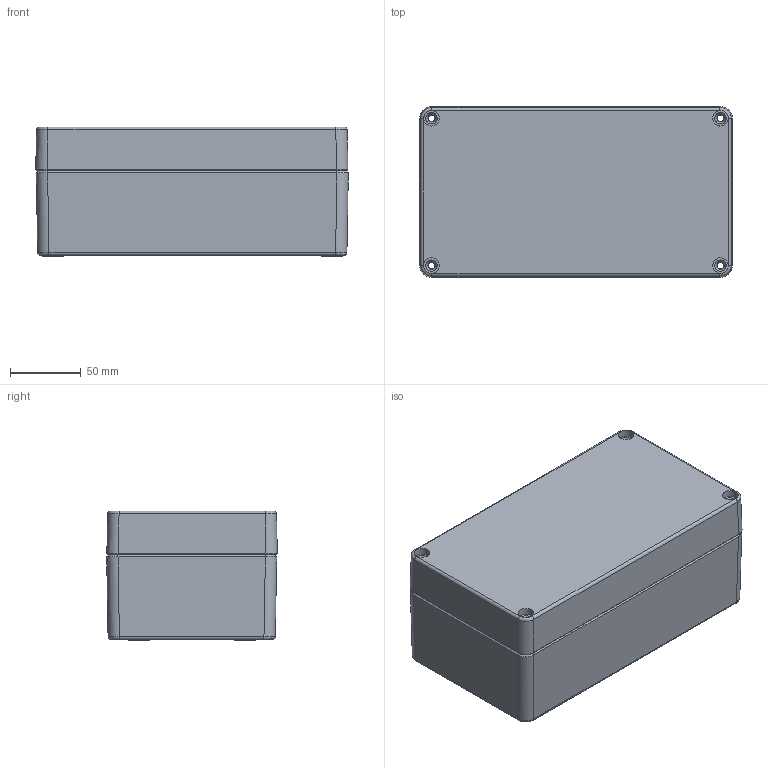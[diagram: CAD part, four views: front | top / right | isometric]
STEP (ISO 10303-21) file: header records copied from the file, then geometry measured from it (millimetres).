
FILE_DESCRIPTION (( 'STEP AP203' ), '1' );
FILE_NAME ('ALU ASSY 22012091.STEP', '2024-08-27T09:07:36', ( '' ), ( '' ), 'SwSTEP 2.0', 'SolidWorks 2018', '' );
FILE_SCHEMA (( 'CONFIG_CONTROL_DESIGN' ));
Length unit declared in the file: millimetre
Products named in the file (3): ALU BASE 22012091; ALU LID 22012091; ALU ASSY 22012091
Assembly tree (2 placements, depth 2):
  ALU ASSY 22012091
    ALU BASE 22012091
    ALU LID 22012091
Bounding box: 220.67 x 120.47 x 91.65 mm (x, y, z)
Volume: 549938.6 mm3; surface area: 236776.5 mm2
Topology: 4 solids, 4 shells, 1930 faces, 5167 edges, 3340 vertices
Faces by surface type: plane 1371, cylinder 292, bspline 226, cone 41
Entity records: 74255 total; most frequent: CARTESIAN_POINT 27686, ORIENTED_EDGE 10316, DIRECTION 8238, EDGE_CURVE 5158, LINE 4136, VECTOR 4136, VERTEX_POINT 3340, EDGE_LOOP 2058
